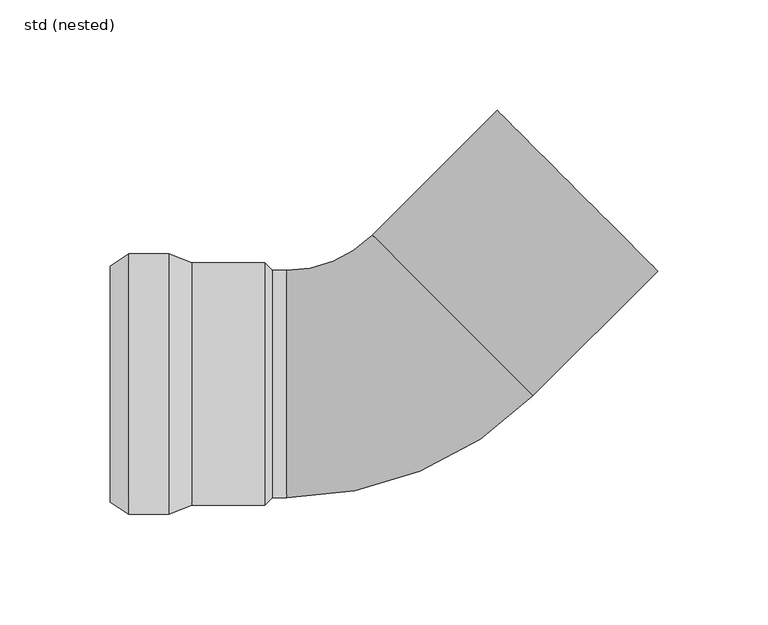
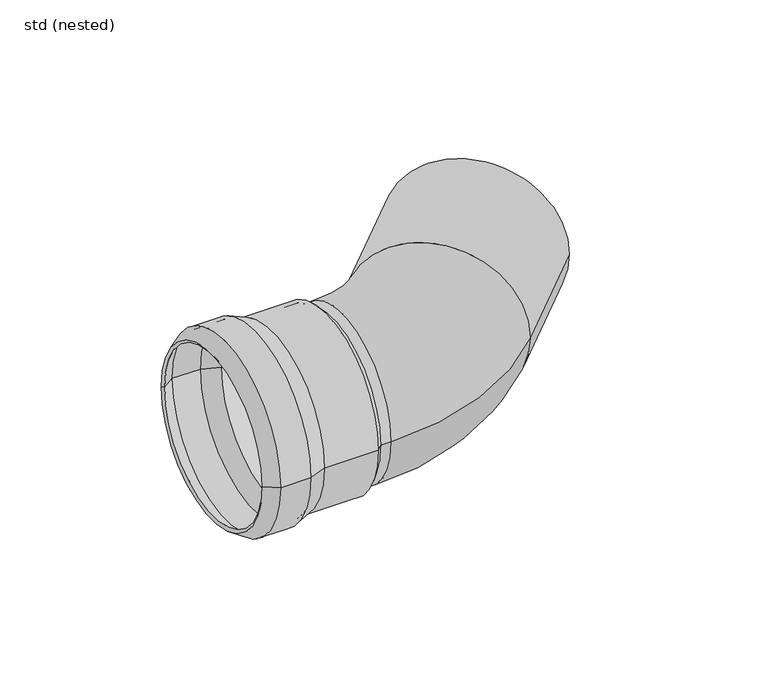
"""IFC4 building model written with IfcOpenShell, lengths in millimetres: pipe fitting geometry, ZZZ_do not use_PIF_ST_UN_GM-X pipe bend_ACO : std (nested)."""

from ifc_helpers import new_model, si_unit, point, frame, origin, place, context, project, spatial, polyline, circle_curve, ellipse_curve, trimmed, source, transform, mapped, element, save
from ifc_brep_helpers import plane_surface, cylinder_surface, revolved_surface, advanced_brep


def std_nested_87475930(model_context):
    return source(origin(), model_context, "Body", "AdvancedBrep", [
        advanced_brep(
        [(-97.5, 59.0, 0.0), (-97.5, -59.0, 0.0), (-115.7, -59.0, 0.0), (-115.7, 59.0, 0.0), (-87.0, 55.0, 0.0), (-87.0, -55.0, 0.0), (-124.0, -53.5, 0.0), (-124.0, 53.5, 0.0), (-54.0, 55.0, 0.0), (-54.0, -55.0, 0.0), (-50.5, 51.5, 0.0), (-50.5, -51.5, 0.0), (-54.0, 51.5, 0.0), (-54.0, -51.5, 0.0), (-87.3680513, 53.0, 0.0), (-87.3680513, -53.0, 0.0), (-54.0, -53.0, 0.0), (-54.0, 53.0, 0.0), (-97.8680513, 57.0, 0.0), (-97.8680513, -57.0, 0.0), (-115.0974883, 57.0, 0.0), (-115.0974883, -57.0, 0.0), (-122.8952393, 51.8328156, 0.0), (-122.8952393, -51.8328156, 0.0)],
        [
            (0, 1, circle_curve(frame((-97.5, 0.0, 0.0), z_axis=(-1.0, 0.0, 0.0), x_axis=(0.0, -1.0, 0.0)), 59.0)),
            (1, 2),
            (2, 3, circle_curve(frame((-115.7, 0.0, 0.0), z_axis=(1.0, 0.0, 0.0), x_axis=(0.0, -1.0, 0.0)), 59.0)),
            (3, 0),
            (1, 0, circle_curve(frame((-97.5, 0.0, 0.0), z_axis=(-1.0, 0.0, 0.0), x_axis=(0.0, -1.0, 0.0)), 59.0)),
            (3, 2, circle_curve(frame((-115.7, 0.0, 0.0), z_axis=(1.0, 0.0, 0.0), x_axis=(0.0, -1.0, 0.0)), 59.0)),
            (4, 5, circle_curve(frame((-87.0, 0.0, 0.0), z_axis=(-1.0, 0.0, 0.0), x_axis=(0.0, -1.0, 0.0)), 55.0)),
            (5, 1),
            (0, 4),
            (5, 4, circle_curve(frame((-87.0, 0.0, 0.0), z_axis=(-1.0, 0.0, 0.0), x_axis=(0.0, -1.0, 0.0)), 55.0)),
            (2, 6),
            (6, 7, circle_curve(frame((-124.0, 0.0, 0.0), z_axis=(1.0, 0.0, 0.0), x_axis=(0.0, -1.0, 0.0)), 53.5)),
            (7, 3),
            (7, 6, circle_curve(frame((-124.0, 0.0, 0.0), z_axis=(1.0, 0.0, 0.0), x_axis=(0.0, -1.0, 0.0)), 53.5)),
            (8, 9, circle_curve(frame((-54.0, 0.0, 0.0), z_axis=(-1.0, 0.0, 0.0), x_axis=(0.0, -1.0, 0.0)), 55.0)),
            (9, 5),
            (4, 8),
            (9, 8, circle_curve(frame((-54.0, 0.0, 0.0), z_axis=(-1.0, 0.0, 0.0), x_axis=(0.0, -1.0, 0.0)), 55.0)),
            (10, 11, circle_curve(frame((-50.5, 0.0, 0.0), z_axis=(-1.0, 0.0, 0.0), x_axis=(0.0, -1.0, 0.0)), 51.5)),
            (11, 9),
            (8, 10),
            (11, 10, circle_curve(frame((-50.5, 0.0, 0.0), z_axis=(-1.0, 0.0, 0.0), x_axis=(0.0, -1.0, 0.0)), 51.5)),
            (12, 13, circle_curve(frame((-54.0, 0.0, 0.0), z_axis=(-1.0, 0.0, 0.0), x_axis=(0.0, -1.0, 0.0)), 51.5)),
            (13, 11),
            (10, 12),
            (13, 12, circle_curve(frame((-54.0, 0.0, 0.0), z_axis=(-1.0, 0.0, 0.0), x_axis=(0.0, -1.0, 0.0)), 51.5)),
            (14, 15, circle_curve(frame((-87.3680513, 0.0, 0.0), z_axis=(-1.0, 0.0, 0.0), x_axis=(0.0, -1.0, 0.0)), 53.0)),
            (15, 16),
            (16, 17, circle_curve(frame((-54.0, 0.0, 0.0), z_axis=(1.0, 0.0, 0.0), x_axis=(0.0, -1.0, 0.0)), 53.0)),
            (17, 14),
            (15, 14, circle_curve(frame((-87.3680513, 0.0, 0.0), z_axis=(-1.0, 0.0, 0.0), x_axis=(0.0, -1.0, 0.0)), 53.0)),
            (17, 16, circle_curve(frame((-54.0, 0.0, 0.0), z_axis=(1.0, 0.0, 0.0), x_axis=(0.0, -1.0, 0.0)), 53.0)),
            (18, 19, circle_curve(frame((-97.8680513, 0.0, 0.0), z_axis=(-1.0, 0.0, 0.0), x_axis=(0.0, -1.0, 0.0)), 57.0)),
            (19, 15),
            (14, 18),
            (19, 18, circle_curve(frame((-97.8680513, 0.0, 0.0), z_axis=(-1.0, 0.0, 0.0), x_axis=(0.0, -1.0, 0.0)), 57.0)),
            (20, 21, circle_curve(frame((-115.0974883, 0.0, 0.0), z_axis=(-1.0, 0.0, 0.0), x_axis=(0.0, -1.0, 0.0)), 57.0)),
            (21, 19),
            (18, 20),
            (21, 20, circle_curve(frame((-115.0974883, 0.0, 0.0), z_axis=(-1.0, 0.0, 0.0), x_axis=(0.0, -1.0, 0.0)), 57.0)),
            (22, 23, circle_curve(frame((-122.8952393, 0.0, 0.0), z_axis=(-1.0, 0.0, 0.0), x_axis=(0.0, -1.0, 0.0)), 51.8328156)),
            (23, 21),
            (20, 22),
            (23, 22, circle_curve(frame((-122.8952393, 0.0, 0.0), z_axis=(-1.0, 0.0, 0.0), x_axis=(0.0, -1.0, 0.0)), 51.8328156)),
            (6, 23),
            (22, 7),
            (16, 13),
            (12, 17),
        ],
        [
            cylinder_surface(frame((-120.6444117, 0.0, 0.0), z_axis=(1.0, 0.0, 0.0), x_axis=(0.0, -1.0, 0.0)), 59.0),
            revolved_surface(polyline([(-97.5, -59.0, 0.0), (-87.0, -55.0, 0.0)]), (-120.6444117, 0.0, 0.0), (1.0, 0.0, 0.0)),
            revolved_surface(polyline([(-124.0, -53.5, 0.0), (-115.7, -59.0, 0.0)]), (-120.6444117, 0.0, 0.0), (1.0, 0.0, 0.0)),
            cylinder_surface(frame((-120.6444117, 0.0, 0.0), z_axis=(1.0, 0.0, 0.0), x_axis=(0.0, -1.0, 0.0)), 55.0),
            revolved_surface(polyline([(-54.0, -55.0, 0.0), (-50.5, -51.5, 0.0)]), (-120.6444117, 0.0, 0.0), (1.0, 0.0, 0.0)),
            revolved_surface(polyline([(-50.5, -51.5, 0.0), (-54.0, -51.5, 0.0)]), (-120.6444117, 0.0, 0.0), (1.0, 0.0, 0.0)),
            revolved_surface(polyline([(-54.0, -53.0, 0.0), (-87.3680513, -53.0, 0.0)]), (-120.6444117, 0.0, 0.0), (1.0, 0.0, 0.0)),
            revolved_surface(polyline([(-87.3680513, -53.0, 0.0), (-97.8680513, -57.0, 0.0)]), (-120.6444117, 0.0, 0.0), (1.0, 0.0, 0.0)),
            revolved_surface(polyline([(-97.8680513, -57.0, 0.0), (-115.0974883, -57.0, 0.0)]), (-120.6444117, 0.0, 0.0), (1.0, 0.0, 0.0)),
            revolved_surface(polyline([(-115.0974883, -57.0, 0.0), (-122.8952393, -51.8328156, 0.0)]), (-120.6444117, 0.0, 0.0), (1.0, 0.0, 0.0)),
            revolved_surface(polyline([(-122.8952393, -51.8328156, 0.0), (-124.0, -53.5, 0.0)]), (-120.6444117, 0.0, 0.0), (1.0, 0.0, 0.0)),
            plane_surface(frame((-54.0, 0.0, 0.0), z_axis=(-1.0, 0.0, 0.0), x_axis=(0.0, -1.0, 0.0))),
        ],
        [
            (0, [[1, 2, 3, 4]]),
            (0, [[5, -4, 6, -2]]),
            (1, [[7, 8, -1, 9]]),
            (1, [[10, -9, -5, -8]]),
            (2, [[-3, 11, 12, 13]]),
            (2, [[-6, -13, 14, -11]]),
            (3, [[15, 16, -7, 17]]),
            (3, [[18, -17, -10, -16]]),
            (4, [[19, 20, -15, 21]]),
            (4, [[22, -21, -18, -20]]),
            (5, [[23, 24, -19, 25]]),
            (5, [[26, -25, -22, -24]]),
            (6, [[27, 28, 29, 30]]),
            (6, [[31, -30, 32, -28]]),
            (7, [[33, 34, -27, 35]]),
            (7, [[36, -35, -31, -34]]),
            (8, [[37, 38, -33, 39]]),
            (8, [[40, -39, -36, -38]]),
            (9, [[41, 42, -37, 43]]),
            (9, [[44, -43, -40, -42]]),
            (10, [[-12, 45, -41, 46]]),
            (10, [[-14, -46, -44, -45]]),
            (11, [[-29, 47, -23, 48]]),
            (11, [[-32, -48, -26, -47]]),
        ],
    ),
        advanced_brep(
        [(-5.2619891, 67.5319293, 0.0), (-44.0, 51.5, 0.0), (-44.0, -51.5, 0.0), (67.5254407, -5.3446106, 0.0), (31.1317258, 31.0936593, 51.5), (31.1317258, 31.0936593, -51.5), (-54.0, -51.5, 0.0), (-54.0, 51.5, 0.0), (124.1285784, 51.1893155, 0.0), (51.3411486, 124.0658553, 0.0)],
        [
            (0, 1, circle_curve(frame((-44.0, 106.3173652, 0.0), z_axis=(0.0, 0.0, -1.0), x_axis=(0.0, -1.0, 0.0)), 54.8173652)),
            (1, 2, circle_curve(frame((-44.0, 0.0, 0.0), z_axis=(1.0, 0.0, 0.0), x_axis=(0.0, 1.0, 0.0)), 51.5)),
            (2, 3, circle_curve(frame((-44.0, 106.3173652, 0.0), z_axis=(0.0, 0.0, 1.0), x_axis=(0.0, -1.0, 0.0)), 157.8173652)),
            (3, 4, circle_curve(frame((31.1317258, 31.0936593, 0.0), z_axis=(-0.707539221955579, -0.7066740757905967, 0.0), x_axis=(-0.7066740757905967, 0.707539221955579, 0.0)), 51.5)),
            (4, 0, circle_curve(frame((31.1317258, 31.0936593, 0.0), z_axis=(-0.707539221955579, -0.7066740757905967, 0.0), x_axis=(-0.7066740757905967, 0.707539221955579, 0.0)), 51.5)),
            (0, 5, circle_curve(frame((31.1317258, 31.0936593, 0.0), z_axis=(-0.707539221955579, -0.7066740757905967, 0.0), x_axis=(-0.7066740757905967, 0.707539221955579, 0.0)), 51.5)),
            (5, 3, circle_curve(frame((31.1317258, 31.0936593, 0.0), z_axis=(-0.7075392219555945, -0.7066740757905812, 0.0), x_axis=(-0.7066740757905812, 0.7075392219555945, 0.0)), 51.5)),
            (2, 1, circle_curve(frame((-44.0, 0.0, 0.0), z_axis=(1.0, 0.0, 0.0), x_axis=(0.0, 1.0, 0.0)), 51.5)),
            (6, 7, circle_curve(frame((-54.0, 0.0, 0.0), z_axis=(-1.0, 0.0, 0.0), x_axis=(0.0, 1.0, 0.0)), 51.5)),
            (7, 6, circle_curve(frame((-54.0, 0.0, 0.0), z_axis=(-1.0, 0.0, 0.0), x_axis=(0.0, 1.0, 0.0)), 51.5)),
            (7, 1),
            (2, 6),
            (8, 9, circle_curve(frame((87.7348635, 87.6275854, 0.0), z_axis=(0.7075392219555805, 0.7066740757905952, 0.0), x_axis=(-0.7066740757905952, 0.7075392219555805, 0.0)), 51.5)),
            (9, 8, circle_curve(frame((87.7348635, 87.6275854, 0.0), z_axis=(0.7075392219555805, 0.7066740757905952, 0.0), x_axis=(-0.7066740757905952, 0.7075392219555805, 0.0)), 51.5)),
            (9, 0),
            (3, 8),
        ],
        [
            revolved_surface(trimmed(ellipse_curve(frame((-44.0, 0.0, 0.0), z_axis=(-1.0, 0.0, 0.0), x_axis=(0.0, 1.0, 0.0)), 51.5, 51.5), [point((-44.0, -51.5, 0.0))], [point((-44.0, 51.5, 0.0))], True, "CARTESIAN"), (-44.0, 106.3173652, 0.0), (0.0, 0.0, 1.0)),
            revolved_surface(trimmed(ellipse_curve(frame((-44.0, 0.0, 0.0), z_axis=(-1.0, 0.0, 0.0), x_axis=(0.0, 1.0, 0.0)), 51.5, 51.5), [point((-44.0, 51.5, 0.0))], [point((-44.0, -51.5, 0.0))], True, "CARTESIAN"), (-44.0, 106.3173652, 0.0), (0.0, 0.0, 1.0)),
            plane_surface(frame((-54.0, 51.5, 0.0), z_axis=(-1.0, 0.0, 0.0), x_axis=(0.0, 0.0, -1.0))),
            cylinder_surface(frame((-54.0, 0.0, 0.0), z_axis=(1.0, 0.0, 0.0), x_axis=(0.0, 1.0, 0.0)), 51.5),
            plane_surface(frame((87.7348635, 87.6275854, 0.0), z_axis=(0.7075392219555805, 0.7066740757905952, 0.0), x_axis=(0.0, 0.0, 1.0))),
            cylinder_surface(frame((31.1317258, 31.0936593, 0.0), z_axis=(-0.7075392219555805, -0.7066740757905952, 0.0), x_axis=(-0.7066740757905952, 0.7075392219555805, 0.0)), 51.5),
        ],
        [
            (0, [[1, 2, 3, 4, 5]]),
            (1, [[-1, 6, 7, -3, 8]]),
            (2, [[9, 10]]),
            (3, [[-10, 11, -8, 12]]),
            (3, [[-9, -12, -2, -11]]),
            (4, [[13, 14]]),
            (5, [[-14, 15, -5, -4, 16]]),
            (5, [[-13, -16, -7, -6, -15]]),
        ],
    ),
    ])


if __name__ == "__main__":
    model = new_model("IFC4")
    model_context = context("Model", 3, world=origin())
    ifc_project = project(units=[si_unit("LENGTHUNIT", "METRE", prefix="MILLI")], contexts=[model_context])
    site = spatial("IfcSite", under=ifc_project)
    building = spatial("IfcBuilding", under=site)
    placement = place(None, origin())
    std_nested_shape = std_nested_87475930(model_context)
    element("IfcPipeFitting", 1, ObjectType="ZZZ_do not use_PIF_ST_UN_GM-X pipe bend_ACO : std (nested)", at=placement, inside=building, context=model_context, shape_type="MappedRepresentation", body=[
        mapped(std_nested_shape, transform((0.0, 0.0, 0.0), x_axis=(1.0, 0.0, 0.0), y_axis=(0.0, 1.0, 0.0), z_axis=(0.0, 0.0, 1.0))),
    ])
    save(model, "model.ifc")
